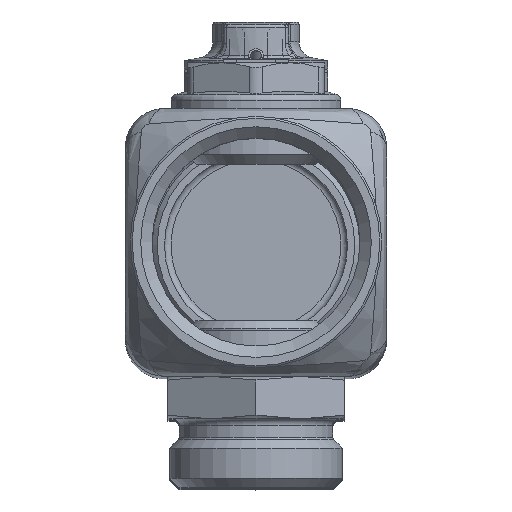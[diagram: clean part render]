
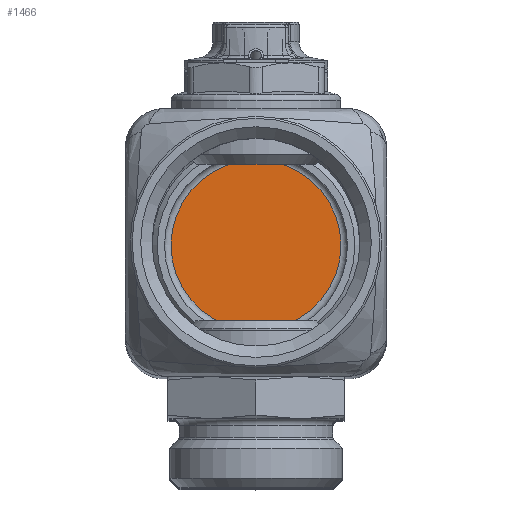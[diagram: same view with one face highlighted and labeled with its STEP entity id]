
A CAD part, top view. The second image highlights one B-rep face of the part: STEP entity #1466.
In plain terms, the highlighted planar face has unit normal (0, 0, 1) as drawn and (0, 1, 0) by its records, which use the part's own axes.
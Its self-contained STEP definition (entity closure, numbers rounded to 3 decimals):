
#1466=ADVANCED_FACE('',(#6668),#6670,.T.);
#6668=FACE_BOUND('',#6669,.T.);
#6669=EDGE_LOOP('',(#13276));
#6670=PLANE('',#6671);
#6671=AXIS2_PLACEMENT_3D('',#6672,#6673,#6674);
#6672=CARTESIAN_POINT('',(0.,11.,0.));
#6673=DIRECTION('',(0.,1.,0.));
#6674=DIRECTION('',(1.,0.,0.));
#13276=ORIENTED_EDGE('',*,*,#15475,.T.);
#15475=EDGE_CURVE('',#17688,#17688,#17689,.T.);
#17688=VERTEX_POINT('',#23727);
#17689=CIRCLE('',#23728,13.);
#23727=CARTESIAN_POINT('',(13.,11.,0.));
#23728=AXIS2_PLACEMENT_3D('',#23729,#23730,#23731);
#23729=CARTESIAN_POINT('',(0.,11.,0.));
#23730=DIRECTION('',(0.,1.,0.));
#23731=DIRECTION('',(1.,0.,0.));
